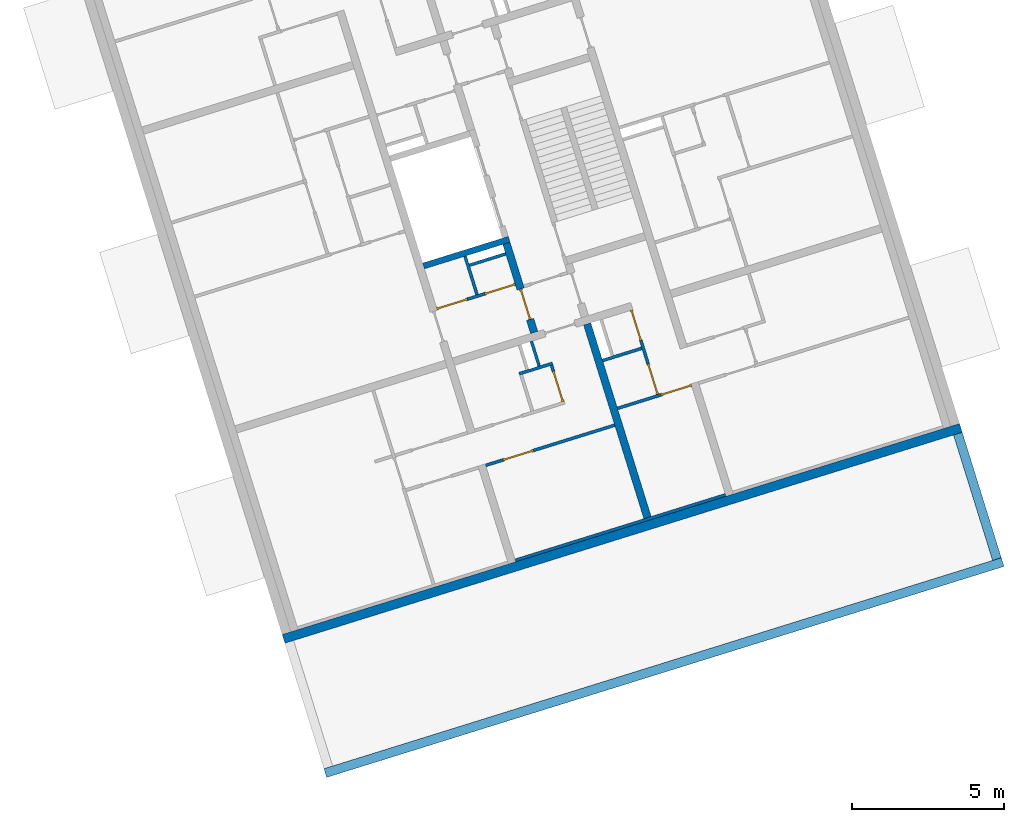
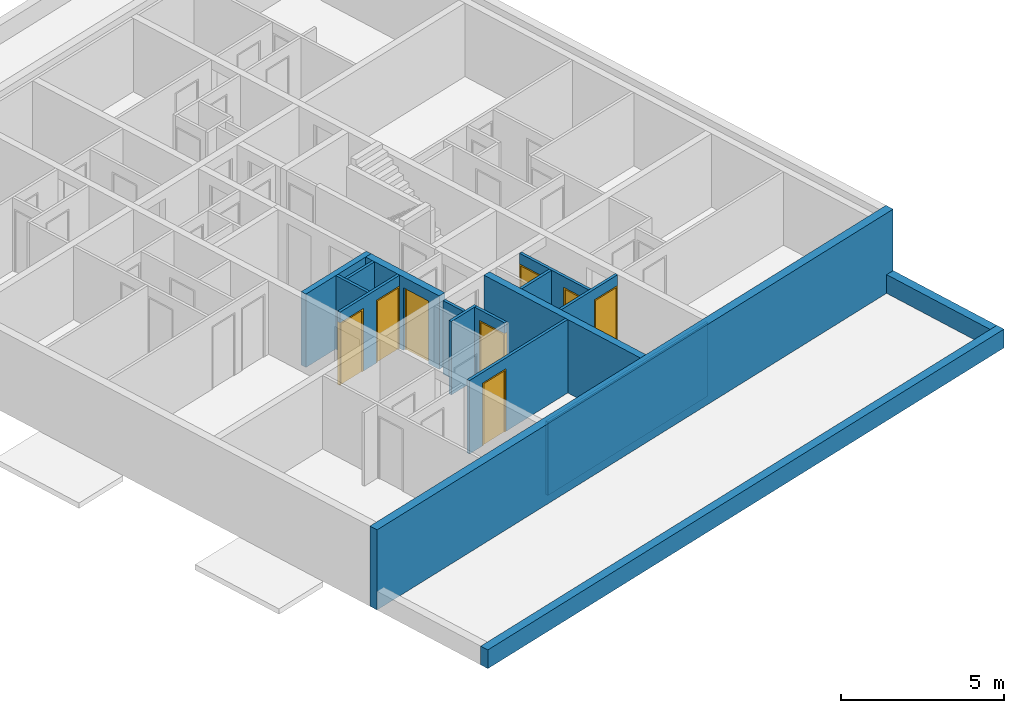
# One storey, part 2 of 9: 17 walls, 8 doors, 10 openings.
"""IFC4 building model written with IfcOpenShell, lengths in metres."""

from ifc_helpers import new_model, entity, si_unit, converted_unit, direction, frame, origin, place, context, subcontext, project, spatial, indexed_curve, outline, extrude, polygons, source, transform, mapped, material, constituent, constituent_set, type_object, type_shapes, element, fill, save


model = new_model("IFC4")

# Units and contexts
model_context = context("Model", 3, precision=1e-05, world=origin(), true_north=direction((6.12323399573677e-17, 1.0)))
body_context = subcontext(model_context, "Body", "Model", "MODEL_VIEW")
ifc_project = project(units=[si_unit("LENGTHUNIT", "METRE"), si_unit("AREAUNIT", "SQUARE_METRE"), si_unit("VOLUMEUNIT", "CUBIC_METRE"), converted_unit("PLANEANGLEUNIT", "DEGREE", entity("IfcPlaneAngleMeasure", 0.0174532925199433), si_unit("PLANEANGLEUNIT", "RADIAN"), dimensions=[0, 0, 0, 0, 0, 0, 0])], contexts=[model_context])

# Site, building, storey
site_placement = place(None, frame((13.1347999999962, 11.9886000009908, 0.0), z_axis=(0.0, 0.0, 1.0), x_axis=(0.954770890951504, 0.297342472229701, 0.0)))
site = spatial("IfcSite", under=ifc_project, at=site_placement, Name="Schiehaven", CompositionType="ELEMENT")
building_placement = place(site_placement, origin())
building = spatial("IfcBuilding", under=site, at=building_placement, Name="VORM huis", CompositionType="ELEMENT")
storey_placement = place(building_placement, frame((0.0, 0.0, 6.9)))
storey = spatial("IfcBuildingStorey", under=building, at=storey_placement, Name="02 tweede verdieping", CompositionType="ELEMENT", Elevation=6.9)

# Walls
ifc_material_1 = material(Name="ntb_ntb_ntb", Category="Miscellaneous")
wall_type_1 = type_object("IfcWallType", Name="Basic Wall:21_WA_gevel_binnenspouwwand 100mm_gen", PredefinedType="STANDARD")
wall_1_placement = place(storey_placement, frame((19.875, 5.04999999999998, 0.0), z_axis=(0.0, 0.0, 1.0), x_axis=(-1.0, 0.0, 0.0)))
element("IfcWall", 1, at=wall_1_placement, inside=storey, type_object=wall_type_1, material=ifc_material_1, Name="Binnenspouwblad", ObjectType="Wand", PredefinedType="NOTDEFINED", context=body_context, shape_type="SweptSolid", body=[
    extrude(outline(indexed_curve([(7.24999999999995, 0.0499999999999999), (-3.39037421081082e-16, 0.0499999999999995), (3.39037421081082e-16, -0.0499999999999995), (7.24999999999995, -0.049999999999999), (7.24999999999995, 0.0499999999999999)], self_intersect=False)), origin(), (0.0, 0.0, 1.0), 2.75),
])
wall_type_2 = type_object("IfcWallType", Name="Basic Wall: 300mm_gen", PredefinedType="STANDARD")
wall_2_placement = place(storey_placement, frame((27.9250000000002, 4.84999999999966, 0.0), z_axis=(0.0, 0.0, 1.0), x_axis=(-1.0, 0.0, 0.0)))
element("IfcWall", 2, at=wall_2_placement, inside=storey, type_object=wall_type_2, material=ifc_material_1, Name="Gevelwand", ObjectType="Wand", PredefinedType="NOTDEFINED", context=body_context, shape_type="SweptSolid", body=[
    extrude(outline(indexed_curve([(23.3500000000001, 0.150000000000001), (2.00830454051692e-15, 0.15), (2.32316397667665e-15, -0.15), (23.3500000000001, -0.15), (23.3500000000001, 0.150000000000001)], self_intersect=False)), origin(), (0.0, 0.0, 1.0), 3.0),
])
wall_3_placement = place(storey_placement, frame((4.57500000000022, 0.224999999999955, 0.0)))
element("IfcWall", 3, at=wall_3_placement, inside=storey, type_object=wall_type_2, material=ifc_material_1, Name="Gevelwand", ObjectType="Wand", PredefinedType="NOTDEFINED", context=body_context, shape_type="SweptSolid", body=[
    extrude(outline(indexed_curve([(23.3499999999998, 0.15), (-1.99629533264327e-16, 0.15), (1.99629533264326e-16, -0.15), (23.3499999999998, -0.15), (23.3499999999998, 0.15)], self_intersect=False)), origin(), (0.0, 0.0, 1.0), 0.700000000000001),
])
wall_4_placement = place(storey_placement, frame((27.775, 0.374999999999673, 0.0), z_axis=(0.0, 0.0, 1.0), x_axis=(0.0, 1.0, 0.0)))
element("IfcWall", 4, at=wall_4_placement, inside=storey, type_object=wall_type_2, material=ifc_material_1, Name="Gevelwand", ObjectType="Wand", PredefinedType="NOTDEFINED", context=body_context, shape_type="SweptSolid", body=[
    extrude(outline(indexed_curve([(4.32499999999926, 0.150000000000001), (3.99039429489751e-17, 0.150000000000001), (-3.99039429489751e-17, -0.150000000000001), (4.32499999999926, -0.15), (4.32499999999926, 0.150000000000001)], self_intersect=False)), origin(), (0.0, 0.0, 1.0), 0.700000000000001),
])
ifc_material_2 = material(Name="beton_gewapend_prefab-element", Category="Miscellaneous")
wall_type_3 = type_object("IfcWallType", Name="Basic Wall:28_WA_skelet_wand 200mm_gen", PredefinedType="STANDARD")
wall_5_placement = place(storey_placement, frame((12.6250000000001, 15.2, 0.0)))
element("IfcWall", 5, at=wall_5_placement, inside=storey, type_object=wall_type_3, material=ifc_material_2, Name="Constructieve wand", ObjectType="Wand", PredefinedType="NOTDEFINED", context=body_context, shape_type="SweptSolid", body=[
    extrude(outline(indexed_curve([(2.9500000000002, 0.100000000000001), (-3.51397851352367e-16, 0.100000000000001), (3.51397851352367e-16, -0.100000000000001), (2.9500000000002, -0.100000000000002), (2.9500000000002, 0.100000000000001)], self_intersect=False)), origin(), (0.0, 0.0, 1.0), 2.75),
])
wall_type_4 = type_object("IfcWallType", Name="Basic Wall:22_WA_afbouw_binnenwand 250mm_gen", PredefinedType="STANDARD")
wall_6_placement = place(storey_placement, frame((17.2000000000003, 11.7749999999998, 0.0), z_axis=(0.0, 0.0, 1.0), x_axis=(0.0, -1.0, 0.0)))
element("IfcWall", 6, at=wall_6_placement, inside=storey, type_object=wall_type_4, material=ifc_material_1, Name="Binnenwand", ObjectType="Wand", PredefinedType="NOTDEFINED", context=body_context, shape_type="SweptSolid", body=[
    extrude(outline(indexed_curve([(6.67500000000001, 0.125), (2.50179154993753e-16, 0.125), (-2.50179154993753e-16, -0.125), (6.67500000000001, -0.124999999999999), (6.67500000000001, 0.125)], self_intersect=False)), origin(), (0.0, 0.0, 1.0), 2.75),
])

# Wall, opening, door
wall_7_placement = place(storey_placement, frame((15.4500000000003, 15.0999999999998, 0.0), z_axis=(0.0, 0.0, 1.0), x_axis=(0.0, -1.0, 0.0)))
wall_7 = element("IfcWall", 7, at=wall_7_placement, inside=storey, type_object=wall_type_4, material=ifc_material_1, Name="Binnenwand", ObjectType="Wand", PredefinedType="NOTDEFINED", context=body_context, shape_type="Tessellation", body=[
    polygons([(2.62500000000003, -0.124999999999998, 2.34999999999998), (2.62500000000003, -0.124999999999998, 1.08286712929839e-15), (3.07499999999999, -0.124999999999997, 1.08286712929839e-15), (3.07499999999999, -0.124999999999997, 2.75), (0.0, -0.124999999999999, 2.75), (0.0, -0.124999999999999, 1.08286712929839e-15), (1.57500000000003, -0.125, 1.08286712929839e-15), (1.57500000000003, -0.125, 2.34999999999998), (3.07499999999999, 0.125000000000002, 1.08286712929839e-15), (2.62500000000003, 0.125000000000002, 1.08286712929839e-15), (2.62500000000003, 0.125000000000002, 2.34999999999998), (1.57500000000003, 0.125000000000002, 2.34999999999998), (1.57500000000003, 0.125000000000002, 1.08286712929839e-15), (1.475, 0.125000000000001, 0.0), (0.0, 0.125, 1.08286712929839e-15), (0.0, 0.125, 2.75), (1.475, 0.125000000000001, 2.75), (1.575, 0.125000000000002, 2.75), (3.07499999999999, 0.125000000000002, 2.75)], [[[1, 2, 3, 4, 5, 6, 7, 8]], [[9, 10, 11, 12, 13, 14, 15, 16, 17, 18, 19]], [[7, 6, 15, 14, 13]], [[4, 3, 9, 19]], [[5, 4, 19, 18, 17, 16]], [[6, 5, 16, 15]], [[13, 12, 8, 7]], [[11, 10, 2, 1]], [[12, 11, 1, 8]], [[3, 2, 10, 9]]], closed=True),
])
opening_1_placement = place(wall_7_placement, frame((1.57500000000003, -0.125000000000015, 0.0)))
opening_1 = element("IfcOpeningElement", 8, at=opening_1_placement, cuts=wall_7, Name="Woningtoegangsdeur", PredefinedType="OPENING", context=body_context, shape_type="SweptSolid", body=[
    extrude(outline(indexed_curve([(2.34999999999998, 1.35358391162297e-15), (2.34999999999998, 1.05), (0.0, 1.05), (0.0, 1.35358391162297e-15), (2.34999999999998, 1.35358391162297e-15)], self_intersect=False)), frame((0.0, 0.0, 0.0), z_axis=(0.0, 1.0, 0.0), x_axis=(0.0, 0.0, 1.0)), (0.0, 0.0, 1.0), 0.25),
])
ifc_material_3 = material(Name="PD_a_binnenwandopeningen", Category="Miscellaneous")
ifc_constituent_1 = constituent(ifc_material_3, Name="PD_a_binnenwandopeningen", Category="Miscellaneous")
ifc_material_4 = material(Name="metaal_aluminium_ntb", Category="Miscellaneous")
ifc_constituent_2 = constituent(ifc_material_4, Name="metaal_aluminium_ntb", Category="Miscellaneous")
ifc_constituent_set_1 = constituent_set(constituents=[ifc_constituent_1, ifc_constituent_2])
door_type_1 = type_object("IfcDoorType", Name="32_DO_binnendeur enkel:woningtoegangsdeur", OperationType="REVOLVING", PredefinedType="DOOR")
shared_shape_1 = source(origin(), body_context, "Body", "SweptSolid", [
    extrude(outline(indexed_curve([(0.475, -1.16249999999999), (0.525000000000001, -1.16249999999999), (0.525000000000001, 1.18749999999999), (-0.525000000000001, 1.18749999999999), (-0.525000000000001, -1.16249999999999), (-0.475, -1.16249999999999), (-0.475, 1.13749999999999), (0.475, 1.13749999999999), (0.475, -1.16249999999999)], self_intersect=False)), frame((0.525000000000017, 0.174999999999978, 1.16249999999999), z_axis=(0.0, -1.0, 0.0), x_axis=(1.0, 0.0, 0.0)), (0.0, 0.0, 1.0), 0.1),
    extrude(outline(indexed_curve([(-0.475, -0.025), (0.475, -0.025), (0.475, 0.025), (-0.475, 0.025), (-0.475, -0.025)], self_intersect=False)), frame((0.525000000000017, 0.12499999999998, 0.0)), (0.0, 0.0, 1.0), 2.29999999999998),
])
door_1_placement = place(opening_1_placement, origin())
door_1 = element("IfcDoor", 9, at=door_1_placement, inside=storey, type_object=door_type_1, material=ifc_constituent_set_1, Name="Woningtoegangsdeur", ObjectType="Deur", OperationType="REVOLVING", OverallHeight=2.34999999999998, OverallWidth=1.05, PredefinedType="DOOR", context=body_context, shape_type="MappedRepresentation", body=[
    mapped(shared_shape_1, transform((0.0, 0.0, 0.0), scale=1.0)),
])
fill(opening_1, door_1)

wall_type_5 = type_object("IfcWallType", Name="Basic Wall:22_WA_afbouw_binnenwand 100mm_gen", PredefinedType="STANDARD")
wall_8_placement = place(storey_placement, frame((12.6250000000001, 8.32499999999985, 0.0)))
wall_8 = element("IfcWall", 10, at=wall_8_placement, inside=storey, type_object=wall_type_5, material=ifc_material_1, Name="Binnenwand", ObjectType="Wand", PredefinedType="NOTDEFINED", context=body_context, shape_type="Tessellation", body=[
    polygons([(8.64956216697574e-16, -0.0500000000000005, 1.08286712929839e-15), (0.600000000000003, -0.0500000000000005, 1.08286712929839e-15), (0.600000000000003, -0.0500000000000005, 2.34999999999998), (1.65, -0.0500000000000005, 2.34999999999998), (1.65, -0.0500000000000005, 1.08286712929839e-15), (4.45000000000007, -0.0500000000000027, 1.08286712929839e-15), (4.45000000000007, -0.0500000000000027, 2.75), (8.64956216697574e-16, -0.0500000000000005, 2.75), (0.600000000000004, 0.0499999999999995, 2.34999999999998), (0.600000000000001, 0.0499999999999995, 1.08286712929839e-15), (1.41847817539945e-15, 0.0499999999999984, 1.08286712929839e-15), (1.41847817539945e-15, 0.0499999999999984, 2.75), (4.45000000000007, 0.0499999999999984, 2.75), (4.45000000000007, 0.0499999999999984, 1.08286712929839e-15), (1.65, 0.0499999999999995, 1.08286712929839e-15), (1.65000000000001, 0.0499999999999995, 2.34999999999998)], [[[1, 2, 3, 4, 5, 6, 7, 8]], [[9, 10, 11, 12, 13, 14, 15, 16]], [[11, 10, 2, 1]], [[7, 6, 14, 13]], [[8, 7, 13, 12]], [[1, 8, 12, 11]], [[5, 4, 16, 15]], [[3, 2, 10, 9]], [[4, 3, 9, 16]], [[15, 14, 6, 5]]], closed=True),
])
opening_2_placement = place(wall_8_placement, frame((0.600000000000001, -0.0500000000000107, 0.0)))
opening_2 = element("IfcOpeningElement", 11, at=opening_2_placement, cuts=wall_8, Name="Binnendeur", PredefinedType="OPENING", context=body_context, shape_type="SweptSolid", body=[
    extrude(outline(indexed_curve([(2.34999999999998, 1.05), (0.0, 1.05), (0.0, 1.35358391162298e-15), (2.34999999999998, 1.35358391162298e-15), (2.34999999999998, 1.05)], self_intersect=False)), frame((0.0, 0.0, 0.0), z_axis=(0.0, 1.0, 0.0), x_axis=(0.0, 0.0, 1.0)), (0.0, 0.0, 1.0), 0.1),
])
ifc_constituent_3 = constituent(ifc_material_3, Name="PD_a_binnenwandopeningen", Category="Miscellaneous")
ifc_constituent_4 = constituent(ifc_material_4, Name="metaal_aluminium_ntb", Category="Miscellaneous")
ifc_constituent_set_2 = constituent_set(constituents=[ifc_constituent_3, ifc_constituent_4])
door_type_2 = type_object("IfcDoorType", Name="32_DO_binnendeur enkel:binnendeur", OperationType="REVOLVING", PredefinedType="DOOR")
shared_shape_2 = source(origin(), body_context, "Body", "SweptSolid", [
    extrude(outline(indexed_curve([(-1.16249999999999, -0.525000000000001), (1.18749999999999, -0.525), (1.18749999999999, 0.525), (-1.16249999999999, 0.525), (-1.16249999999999, 0.475), (1.13749999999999, 0.475), (1.13749999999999, -0.475), (-1.16249999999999, -0.475), (-1.16249999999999, -0.525000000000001)], self_intersect=False)), frame((0.525000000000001, 0.0, 1.16249999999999), z_axis=(0.0, 1.0, 0.0), x_axis=(0.0, 0.0, 1.0)), (0.0, 0.0, 1.0), 0.1),
    extrude(outline(indexed_curve([(-0.025, -0.475), (0.025, -0.475), (0.025, 0.475), (-0.025, 0.475), (-0.025, -0.475)], self_intersect=False)), frame((0.525000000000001, 0.0499999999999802, 0.0), z_axis=(0.0, 0.0, 1.0), x_axis=(0.0, 1.0, 0.0)), (0.0, 0.0, 1.0), 2.29999999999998),
])
type_shapes(door_type_2, [shared_shape_2])
door_2_placement = place(opening_2_placement, origin())
door_2 = element("IfcDoor", 12, at=door_2_placement, inside=storey, type_object=door_type_2, material=ifc_constituent_set_2, Name="Binnendeur", ObjectType="Deur", OperationType="REVOLVING", OverallHeight=2.34999999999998, OverallWidth=1.05, PredefinedType="DOOR", context=body_context, shape_type="MappedRepresentation", body=[
    mapped(shared_shape_2, transform((0.0, 0.0, 0.0), scale=1.0)),
])
fill(opening_2, door_2)

wall_9_placement = place(storey_placement, frame((15.6750000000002, 9.57499999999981, 0.0), z_axis=(0.0, 0.0, 1.0), x_axis=(0.0, 1.0, 0.0)))
wall_9 = element("IfcWall", 13, at=wall_9_placement, inside=storey, type_object=wall_type_5, material=ifc_material_1, Name="Binnenwand", ObjectType="Wand", PredefinedType="NOTDEFINED", context=body_context, shape_type="Tessellation", body=[
    polygons([(1.25, -0.0499999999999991, 2.75), (1.08286712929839e-15, -0.0499999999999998, 2.75), (1.08286712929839e-15, -0.0499999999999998, 2.34999999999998), (1.05, -0.050000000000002, 2.34999999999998), (1.05, -0.050000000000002, 1.08286712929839e-15), (1.25, -0.0499999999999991, 1.08286712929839e-15), (0.0, 0.0500000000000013, 2.75), (1.25, 0.0499999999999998, 2.75), (1.25, 0.0499999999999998, 1.08286712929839e-15), (1.05, 0.0499999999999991, 1.08286712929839e-15), (1.05, 0.0499999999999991, 2.34999999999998), (0.0, 0.0500000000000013, 2.34999999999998)], [[[1, 2, 3, 4, 5, 6]], [[7, 8, 9, 10, 11, 12]], [[9, 6, 5, 10]], [[2, 1, 8, 7]], [[4, 11, 10, 5]], [[11, 4, 3, 12]], [[1, 6, 9, 8]], [[2, 7, 12, 3]]], closed=True),
])
opening_3_placement = place(wall_9_placement, frame((1.05, 0.0499999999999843, 0.0)))
opening_3 = element("IfcOpeningElement", 14, at=opening_3_placement, cuts=wall_9, Name="Binnendeur", PredefinedType="OPENING", context=body_context, shape_type="SweptSolid", body=[
    extrude(outline(indexed_curve([(2.34999999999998, 1.05), (0.0, 1.05), (0.0, 1.35358391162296e-15), (2.34999999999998, 1.35358391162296e-15), (2.34999999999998, 1.05)], self_intersect=False)), frame((0.0, 0.0, 0.0), z_axis=(0.0, -1.0, 0.0), x_axis=(0.0, 0.0, 1.0)), (0.0, 0.0, 1.0), 0.1),
])
ifc_constituent_5 = constituent(ifc_material_3, Name="PD_a_binnenwandopeningen", Category="Miscellaneous")
ifc_constituent_6 = constituent(ifc_material_4, Name="metaal_aluminium_ntb", Category="Miscellaneous")
ifc_constituent_set_3 = constituent_set(constituents=[ifc_constituent_5, ifc_constituent_6])
door_3_placement = place(opening_3_placement, frame((0.0, 0.0, 0.0), z_axis=(0.0, 0.0, 1.0), x_axis=(-1.0, 0.0, 0.0)))
door_3 = element("IfcDoor", 15, at=door_3_placement, inside=storey, type_object=door_type_2, material=ifc_constituent_set_3, Name="Binnendeur", ObjectType="Deur", OperationType="REVOLVING", OverallHeight=2.34999999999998, OverallWidth=1.05, PredefinedType="DOOR", context=body_context, shape_type="MappedRepresentation", body=[
    mapped(shared_shape_2, transform((0.0, 0.0, 0.0), scale=1.0)),
])
fill(opening_3, door_3)

# Walls
wall_10_placement = place(storey_placement, frame((14.5750000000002, 10.8749999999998, 0.0)))
element("IfcWall", 16, at=wall_10_placement, inside=storey, type_object=wall_type_5, material=ifc_material_1, Name="Binnenwand", ObjectType="Wand", PredefinedType="NOTDEFINED", context=body_context, shape_type="SweptSolid", body=[
    extrude(outline(indexed_curve([(1.15, 0.0499999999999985), (-8.06106149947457e-16, 0.0499999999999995), (8.06106149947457e-16, -0.0499999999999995), (1.15, -0.0500000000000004), (1.15, 0.0499999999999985)], self_intersect=False)), origin(), (0.0, 0.0, 1.0), 2.75),
])
wall_11_placement = place(storey_placement, frame((15.2750000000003, 11.7749999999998, 0.0), z_axis=(0.0, 0.0, 1.0), x_axis=(0.0, -1.0, 0.0)))
element("IfcWall", 17, at=wall_11_placement, inside=storey, type_object=wall_type_5, material=ifc_material_1, Name="Binnenwand", ObjectType="Wand", PredefinedType="NOTDEFINED", context=body_context, shape_type="SweptSolid", body=[
    extrude(outline(indexed_curve([(0.850000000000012, 0.0499999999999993), (-7.54991624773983e-16, 0.0499999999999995), (7.54991624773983e-16, -0.0499999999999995), (0.850000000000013, -0.0499999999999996), (0.850000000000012, 0.0499999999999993)], self_intersect=False)), origin(), (0.0, 0.0, 1.0), 2.75),
])
wall_12_placement = place(storey_placement, frame((17.3250000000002, 10.4749999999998, 0.0)))
element("IfcWall", 18, at=wall_12_placement, inside=storey, type_object=wall_type_5, material=ifc_material_1, Name="Binnenwand", ObjectType="Wand", PredefinedType="NOTDEFINED", context=body_context, shape_type="SweptSolid", body=[
    extrude(outline(indexed_curve([(1.34999999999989, 0.0500000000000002), (-1.88291440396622e-16, 0.0499999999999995), (1.88291440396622e-16, -0.0499999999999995), (1.34999999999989, -0.0499999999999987), (1.34999999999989, 0.0500000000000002)], self_intersect=False)), origin(), (0.0, 0.0, 1.0), 2.75),
])

# Wall, openings, door
wall_13_placement = place(storey_placement, frame((17.3250000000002, 8.82499999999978, 0.0)))
wall_13 = element("IfcWall", 19, at=wall_13_placement, inside=storey, type_object=wall_type_5, material=ifc_material_1, Name="Binnenwand", ObjectType="Wand", PredefinedType="NOTDEFINED", context=body_context, shape_type="Tessellation", body=[
    polygons([(2.5499999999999, -0.0499999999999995, 2.75), (1.60660034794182e-15, -0.0500000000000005, 2.75), (1.60660034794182e-15, -0.0500000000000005, 1.08286712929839e-15), (1.49999999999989, -0.0500000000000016, 1.08286712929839e-15), (1.49999999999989, -0.0500000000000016, 2.34999999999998), (2.5499999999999, -0.0499999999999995, 2.34999999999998), (1.23001746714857e-15, 0.0499999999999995, 2.75), (1.34999999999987, 0.0499999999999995, 2.75), (1.44999999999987, 0.0499999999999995, 2.75), (2.5499999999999, 0.0499999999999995, 2.75), (2.5499999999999, 0.0499999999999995, 2.34999999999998), (1.49999999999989, 0.0499999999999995, 2.34999999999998), (1.49999999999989, 0.0499999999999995, 1.08286712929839e-15), (1.23001746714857e-15, 0.0499999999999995, 1.08286712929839e-15)], [[[1, 2, 3, 4, 5, 6]], [[7, 8, 9, 10, 11, 12, 13, 14]], [[3, 14, 13, 4]], [[10, 1, 6, 11]], [[2, 1, 10, 9, 8, 7]], [[3, 2, 7, 14]], [[12, 5, 4, 13]], [[5, 12, 11, 6]]], closed=True),
])
opening_4_placement = place(wall_13_placement, origin())
element("IfcOpeningElement", 20, at=opening_4_placement, cuts=wall_13, Name="Binnendeur", PredefinedType="OPENING", context=body_context, shape_type="SweptSolid", body=[
    extrude(outline(indexed_curve([(-0.0499999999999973, -1.17499999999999), (0.0500000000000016, -1.17499999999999), (0.0500000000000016, 1.17499999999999), (-0.0499999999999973, 1.17499999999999), (-0.0499999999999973, -1.17499999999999)], self_intersect=False)), frame((1.39999999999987, 0.0500000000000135, 1.17499999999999), z_axis=(0.0, 1.0, 0.0), x_axis=(-1.0, 0.0, 0.0)), (0.0, 0.0, 1.0), 1.05),
])
opening_5_placement = place(wall_13_placement, frame((1.49999999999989, -0.0500000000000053, 0.0)))
opening_5 = element("IfcOpeningElement", 21, at=opening_5_placement, cuts=wall_13, Name="Binnendeur", PredefinedType="OPENING", context=body_context, shape_type="SweptSolid", body=[
    extrude(outline(indexed_curve([(2.34999999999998, 1.05), (0.0, 1.05), (0.0, 1.35358391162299e-15), (2.34999999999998, 1.35358391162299e-15), (2.34999999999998, 1.05)], self_intersect=False)), frame((0.0, 0.0, 0.0), z_axis=(0.0, 1.0, 0.0), x_axis=(0.0, 0.0, 1.0)), (0.0, 0.0, 1.0), 0.1),
])
ifc_constituent_7 = constituent(ifc_material_3, Name="PD_a_binnenwandopeningen", Category="Miscellaneous")
ifc_constituent_8 = constituent(ifc_material_4, Name="metaal_aluminium_ntb", Category="Miscellaneous")
ifc_constituent_set_4 = constituent_set(constituents=[ifc_constituent_7, ifc_constituent_8])
door_4_placement = place(opening_5_placement, origin())
door_4 = element("IfcDoor", 22, at=door_4_placement, inside=storey, type_object=door_type_2, material=ifc_constituent_set_4, Name="Binnendeur", ObjectType="Deur", OperationType="REVOLVING", OverallHeight=2.34999999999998, OverallWidth=1.05, PredefinedType="DOOR", context=body_context, shape_type="MappedRepresentation", body=[
    mapped(shared_shape_2, transform((0.0, 0.0, 0.0), scale=1.0)),
])
fill(opening_5, door_4)

# Wall, openings, doors
wall_14_placement = place(storey_placement, frame((18.7250000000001, 11.7749999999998, 0.0), z_axis=(0.0, 0.0, 1.0), x_axis=(0.0, -1.0, 0.0)))
wall_14 = element("IfcWall", 23, at=wall_14_placement, inside=storey, type_object=wall_type_5, material=ifc_material_1, Name="Binnenwand", ObjectType="Wand", PredefinedType="NOTDEFINED", context=body_context, shape_type="Tessellation", body=[
    polygons([(2.90000000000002, -0.0499999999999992, 2.75), (1.35000000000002, -0.0499999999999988, 2.75), (1.25000000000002, -0.0500000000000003, 2.75), (2.16573425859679e-15, -0.0499999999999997, 2.75), (2.16573425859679e-15, -0.0499999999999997, 2.34999999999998), (1.05, -0.049999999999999, 2.34999999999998), (1.05, -0.0500000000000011, 1.08286712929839e-15), (1.25000000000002, -0.0500000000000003, 0.0), (1.35000000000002, -0.0499999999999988, 0.0), (1.85, -0.0499999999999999, 1.08286712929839e-15), (1.85, -0.0499999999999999, 2.34999999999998), (2.90000000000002, -0.0499999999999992, 2.34999999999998), (2.16573425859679e-15, 0.0500000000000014, 2.75), (2.90000000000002, 0.0499999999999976, 2.75), (2.90000000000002, 0.0499999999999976, 2.34999999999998), (1.85, 0.049999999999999, 2.34999999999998), (1.85, 0.049999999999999, 1.08286712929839e-15), (1.05, 0.0499999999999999, 1.08286712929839e-15), (1.05, 0.0499999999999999, 2.34999999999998), (2.16573425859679e-15, 0.0500000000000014, 2.34999999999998)], [[[1, 2, 3, 4, 5, 6, 7, 8, 9, 10, 11, 12]], [[13, 14, 15, 16, 17, 18, 19, 20]], [[17, 10, 9, 8, 7, 18]], [[4, 3, 2, 1, 14, 13]], [[4, 13, 20, 5]], [[6, 19, 18, 7]], [[19, 6, 5, 20]], [[16, 11, 10, 17]], [[11, 16, 15, 12]], [[14, 1, 12, 15]]], closed=True),
])
opening_6_placement = place(wall_14_placement, frame((0.0, -0.0499999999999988, 0.0)))
opening_6 = element("IfcOpeningElement", 24, at=opening_6_placement, cuts=wall_14, Name="Binnendeur", PredefinedType="OPENING", context=body_context, shape_type="SweptSolid", body=[
    extrude(outline(indexed_curve([(2.34999999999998, 1.05), (0.0, 1.05), (0.0, 1.35358391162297e-15), (2.34999999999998, 1.35358391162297e-15), (2.34999999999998, 1.05)], self_intersect=False)), frame((0.0, 0.0, 0.0), z_axis=(0.0, 1.0, 0.0), x_axis=(0.0, 0.0, 1.0)), (0.0, 0.0, 1.0), 0.1),
])
opening_7_placement = place(wall_14_placement, frame((11.7749999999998, -18.7250000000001, 0.0), z_axis=(0.0, 0.0, 1.0), x_axis=(0.0, 1.0, 0.0)))
element("IfcOpeningElement", 25, at=opening_7_placement, cuts=wall_14, Name="Binnendeur", PredefinedType="OPENING", context=body_context, shape_type="SweptSolid", body=[
    extrude(outline(indexed_curve([(-1.17499999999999, -0.525000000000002), (1.17499999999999, -0.525), (1.17499999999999, 0.525), (-1.17499999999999, 0.525), (-1.17499999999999, -0.525000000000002)], self_intersect=False)), frame((17.1510000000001, 11.2499999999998, 1.17499999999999), z_axis=(1.0, 0.0, 0.0), x_axis=(0.0, 0.0, -1.0)), (0.0, 0.0, 1.0), 3.048),
])
opening_8_placement = place(wall_14_placement, frame((1.85, -0.0500000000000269, 0.0)))
opening_8 = element("IfcOpeningElement", 26, at=opening_8_placement, cuts=wall_14, Name="Binnendeur", PredefinedType="OPENING", context=body_context, shape_type="SweptSolid", body=[
    extrude(outline(indexed_curve([(2.34999999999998, 1.05), (0.0, 1.05), (0.0, 2.70716782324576e-16), (2.34999999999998, 2.70716782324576e-16), (2.34999999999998, 1.05)], self_intersect=False)), frame((0.0, 0.0, 0.0), z_axis=(0.0, 1.0, 0.0), x_axis=(0.0, 0.0, 1.0)), (0.0, 0.0, 1.0), 0.1),
])
ifc_constituent_9 = constituent(ifc_material_3, Name="PD_a_binnenwandopeningen", Category="Miscellaneous")
ifc_constituent_10 = constituent(ifc_material_4, Name="metaal_aluminium_ntb", Category="Miscellaneous")
ifc_constituent_set_5 = constituent_set(constituents=[ifc_constituent_9, ifc_constituent_10])
door_5_placement = place(opening_6_placement, origin())
door_5 = element("IfcDoor", 27, at=door_5_placement, inside=storey, type_object=door_type_2, material=ifc_constituent_set_5, Name="Binnendeur", ObjectType="Deur", OperationType="REVOLVING", OverallHeight=2.34999999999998, OverallWidth=1.05, PredefinedType="DOOR", context=body_context, shape_type="MappedRepresentation", body=[
    mapped(shared_shape_2, transform((0.0, 0.0, 0.0), scale=1.0)),
])
fill(opening_6, door_5)
ifc_constituent_11 = constituent(ifc_material_3, Name="PD_a_binnenwandopeningen", Category="Miscellaneous")
ifc_constituent_12 = constituent(ifc_material_4, Name="metaal_aluminium_ntb", Category="Miscellaneous")
ifc_constituent_set_6 = constituent_set(constituents=[ifc_constituent_11, ifc_constituent_12])
door_6_placement = place(opening_8_placement, origin())
door_6 = element("IfcDoor", 28, at=door_6_placement, inside=storey, type_object=door_type_2, material=ifc_constituent_set_6, Name="Binnendeur", ObjectType="Deur", OperationType="REVOLVING", OverallHeight=2.34999999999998, OverallWidth=1.05, PredefinedType="DOOR", context=body_context, shape_type="MappedRepresentation", body=[
    mapped(shared_shape_2, transform((0.0, 0.0, 0.0), scale=1.0)),
])
fill(opening_8, door_6)

wall_15_placement = place(storey_placement, frame((15.3250000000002, 13.7249999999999, 0.0), z_axis=(0.0, 0.0, 1.0), x_axis=(-1.0, 0.0, 0.0)))
wall_15 = element("IfcWall", 29, at=wall_15_placement, inside=storey, type_object=wall_type_5, material=ifc_material_1, Name="Binnenwand", ObjectType="Wand", PredefinedType="NOTDEFINED", context=body_context, shape_type="Tessellation", body=[
    polygons([(2.70000000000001, -0.0499999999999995, 2.75), (1.34999999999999, -0.0500000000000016, 2.75), (1.24999999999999, -0.0500000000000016, 2.75), (-4.01061899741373e-16, -0.0499999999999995, 2.75), (-4.01061899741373e-16, -0.0499999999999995, 2.34999999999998), (1.04999999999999, -0.0500000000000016, 2.34999999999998), (1.04999999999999, -0.0500000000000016, 1.08286712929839e-15), (1.24999999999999, -0.0500000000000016, 0.0), (1.34999999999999, -0.0500000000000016, 0.0), (1.65000000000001, -0.0500000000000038, 1.08286712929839e-15), (1.65000000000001, -0.0500000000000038, 2.34999999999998), (2.70000000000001, -0.0499999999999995, 2.34999999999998), (-1.04276093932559e-15, 0.0499999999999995, 2.75), (2.70000000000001, 0.0499999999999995, 2.75), (2.70000000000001, 0.0499999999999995, 2.34999999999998), (1.65000000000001, 0.0499999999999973, 2.34999999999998), (1.65000000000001, 0.0499999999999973, 1.08286712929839e-15), (1.05, 0.0500000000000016, 1.08286712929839e-15), (1.05, 0.0500000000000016, 2.34999999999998), (-1.04276093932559e-15, 0.0499999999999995, 2.34999999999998)], [[[1, 2, 3, 4, 5, 6, 7, 8, 9, 10, 11, 12]], [[13, 14, 15, 16, 17, 18, 19, 20]], [[7, 18, 17, 10, 9, 8]], [[14, 1, 12, 15]], [[4, 3, 2, 1, 14, 13]], [[4, 13, 20, 5]], [[6, 19, 18, 7]], [[19, 6, 5, 20]], [[16, 11, 10, 17]], [[11, 16, 15, 12]]], closed=True),
])
opening_9_placement = place(wall_15_placement, frame((0.0, -0.0500000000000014, 0.0)))
opening_9 = element("IfcOpeningElement", 30, at=opening_9_placement, cuts=wall_15, Name="Binnendeur", PredefinedType="OPENING", context=body_context, shape_type="SweptSolid", body=[
    extrude(outline(indexed_curve([(2.34999999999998, 1.05), (0.0, 1.05), (0.0, 1.35358391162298e-15), (2.34999999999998, 1.35358391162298e-15), (2.34999999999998, 1.05)], self_intersect=False)), frame((0.0, 0.0, 0.0), z_axis=(0.0, 1.0, 0.0), x_axis=(0.0, 0.0, 1.0)), (0.0, 0.0, 1.0), 0.1),
])
opening_10_placement = place(wall_15_placement, frame((1.65000000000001, -0.0500000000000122, 0.0)))
opening_10 = element("IfcOpeningElement", 31, at=opening_10_placement, cuts=wall_15, Name="Binnendeur", PredefinedType="OPENING", context=body_context, shape_type="SweptSolid", body=[
    extrude(outline(indexed_curve([(2.34999999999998, 1.05), (0.0, 1.05), (0.0, 1.35358391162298e-15), (2.34999999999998, 1.35358391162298e-15), (2.34999999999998, 1.05)], self_intersect=False)), frame((0.0, 0.0, 0.0), z_axis=(0.0, 1.0, 0.0), x_axis=(0.0, 0.0, 1.0)), (0.0, 0.0, 1.0), 0.1),
])
ifc_constituent_13 = constituent(ifc_material_3, Name="PD_a_binnenwandopeningen", Category="Miscellaneous")
ifc_constituent_14 = constituent(ifc_material_4, Name="metaal_aluminium_ntb", Category="Miscellaneous")
ifc_constituent_set_7 = constituent_set(constituents=[ifc_constituent_13, ifc_constituent_14])
door_7_placement = place(opening_9_placement, origin())
door_7 = element("IfcDoor", 32, at=door_7_placement, inside=storey, type_object=door_type_2, material=ifc_constituent_set_7, Name="Binnendeur", ObjectType="Deur", OperationType="REVOLVING", OverallHeight=2.34999999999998, OverallWidth=1.05, PredefinedType="DOOR", context=body_context, shape_type="MappedRepresentation", body=[
    mapped(shared_shape_2, transform((0.0, 0.0, 0.0), scale=1.0)),
])
fill(opening_9, door_7)
ifc_constituent_15 = constituent(ifc_material_3, Name="PD_a_binnenwandopeningen", Category="Miscellaneous")
ifc_constituent_16 = constituent(ifc_material_4, Name="metaal_aluminium_ntb", Category="Miscellaneous")
ifc_constituent_set_8 = constituent_set(constituents=[ifc_constituent_15, ifc_constituent_16])
door_8_placement = place(opening_10_placement, origin())
door_8 = element("IfcDoor", 33, at=door_8_placement, inside=storey, type_object=door_type_2, material=ifc_constituent_set_8, Name="Binnendeur", ObjectType="Deur", OperationType="REVOLVING", OverallHeight=2.34999999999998, OverallWidth=1.05, PredefinedType="DOOR", context=body_context, shape_type="MappedRepresentation", body=[
    mapped(shared_shape_2, transform((0.0, 0.0, 0.0), scale=1.0)),
])
fill(opening_10, door_8)

# Walls
wall_16_placement = place(storey_placement, frame((15.3250000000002, 14.7749999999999, 0.0), z_axis=(0.0, 0.0, 1.0), x_axis=(-1.0, 0.0, 0.0)))
element("IfcWall", 34, at=wall_16_placement, inside=storey, type_object=wall_type_5, material=ifc_material_1, Name="Binnenwand", ObjectType="Wand", PredefinedType="NOTDEFINED", context=body_context, shape_type="SweptSolid", body=[
    extrude(outline(indexed_curve([(1.24999999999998, 0.050000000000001), (-3.20849519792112e-16, 0.0499999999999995), (3.20849519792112e-16, -0.0499999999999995), (1.24999999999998, -0.0499999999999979), (1.24999999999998, 0.050000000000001)], self_intersect=False)), origin(), (0.0, 0.0, 1.0), 2.75),
])
wall_17_placement = place(storey_placement, frame((14.0250000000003, 13.7749999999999, 0.0), z_axis=(0.0, 0.0, 1.0), x_axis=(0.0, 1.0, 0.0)))
element("IfcWall", 35, at=wall_17_placement, inside=storey, type_object=wall_type_5, material=ifc_material_1, Name="Binnenwand", ObjectType="Wand", PredefinedType="NOTDEFINED", context=body_context, shape_type="SweptSolid", body=[
    extrude(outline(indexed_curve([(1.32500000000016, 0.05), (-1.03130202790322e-16, 0.0499999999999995), (1.03130202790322e-16, -0.0499999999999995), (1.32500000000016, -0.0499999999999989), (1.32500000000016, 0.05)], self_intersect=False)), origin(), (0.0, 0.0, 1.0), 2.75),
])

save(model, "model.ifc")
